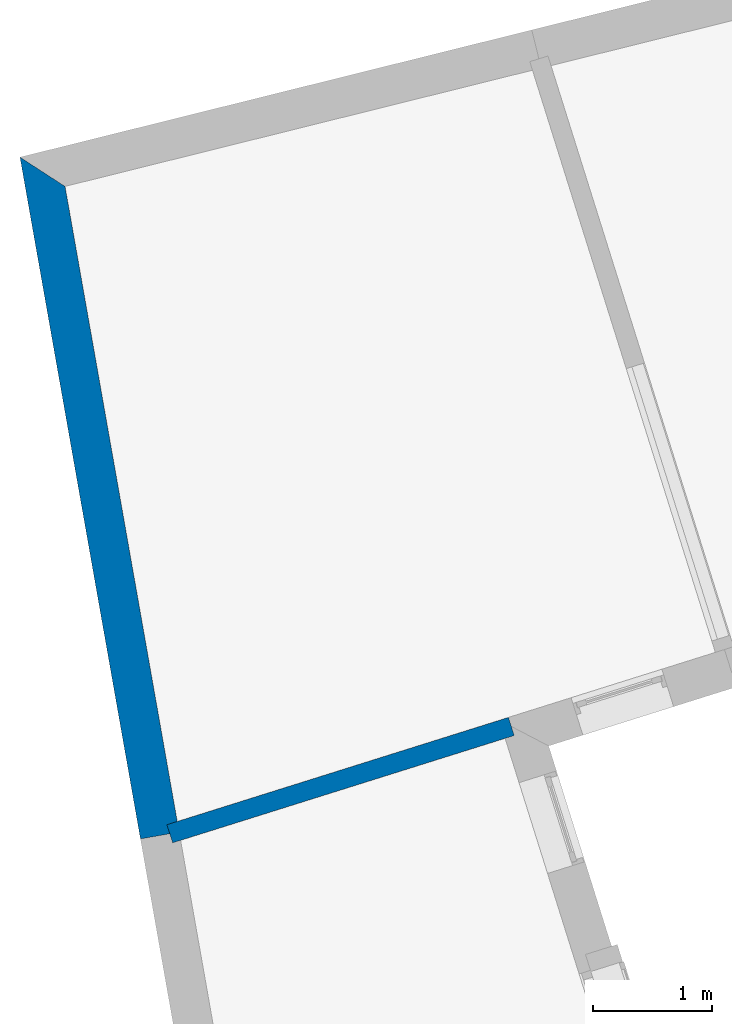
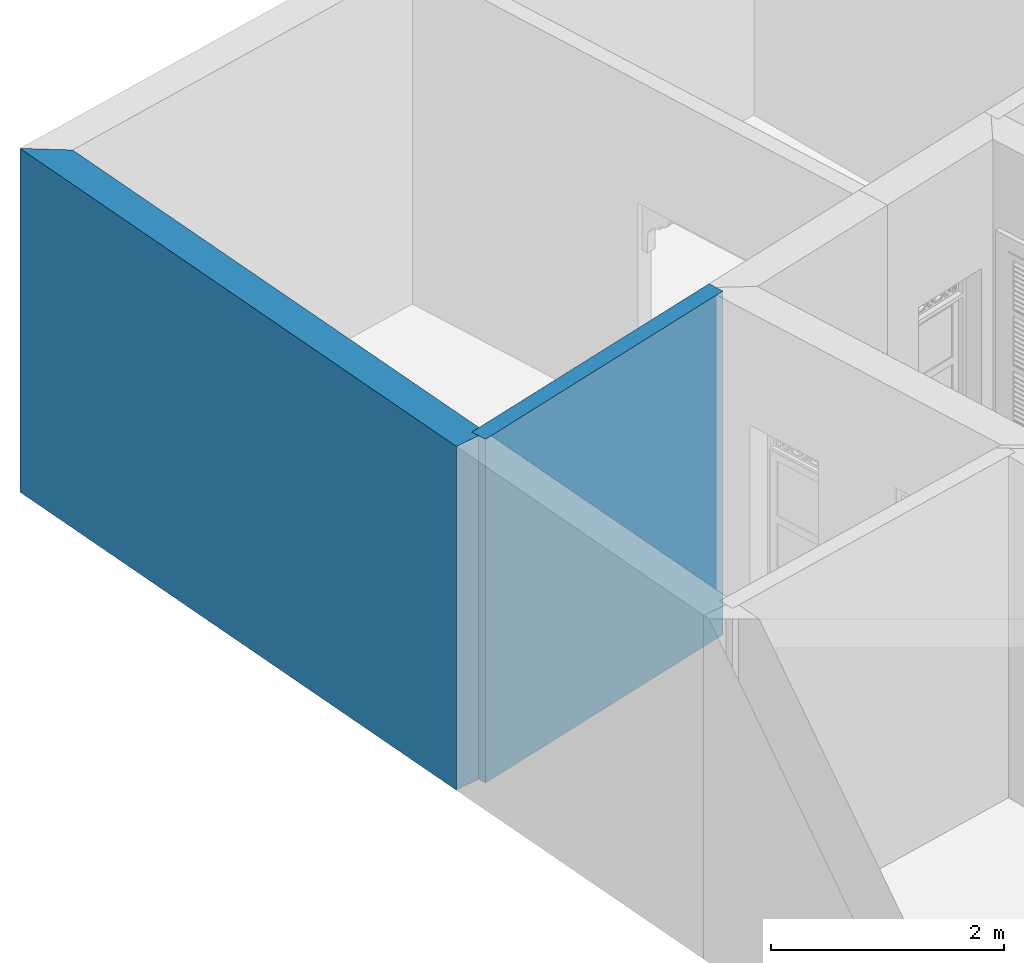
# One storey, part 10 of 14: 2 walls.
"""IFC4 building model written with IfcOpenShell, lengths in metres."""

from ifc_helpers import new_model, si_unit, frame, origin_with_axes, place, context, subcontext, project, spatial, polyline, outline, extrude, material, layer, layer_set, layer_usage, type_object, element, save


model = new_model("IFC4")

# Units and contexts
model_context = context("Model", 3, world=origin_with_axes())
body_context = subcontext(model_context, "Body", "Model", "MODEL_VIEW")
ifc_project = project(units=[si_unit("PLANEANGLEUNIT", "RADIAN"), si_unit("MASSUNIT", "GRAM", prefix="KILO"), si_unit("FORCEUNIT", "NEWTON", prefix="KILO"), si_unit("LENGTHUNIT", "METRE"), si_unit("AREAUNIT", "SQUARE_METRE"), si_unit("VOLUMEUNIT", "CUBIC_METRE")], contexts=[model_context, model_context])

# Site, building, storey
site_placement = place(None, origin_with_axes())
site = spatial("IfcSite", under=ifc_project, at=site_placement, Name="Site plot-0", CompositionType="ELEMENT")
building_placement = place(None, origin_with_axes())
building = spatial("IfcBuilding", under=site, at=building_placement, Name="Building plot-0", CompositionType="ELEMENT")
storey_placement = place(None, origin_with_axes())
storey = spatial("IfcBuildingStorey", under=building, at=storey_placement, Name="plot-0 0", CompositionType="ELEMENT", Elevation=0.0)

# Walls
ifc_material_1 = material(Name="Masonry")
ifc_layer_1 = layer(ifc_material_1, 0.33, ventilated=False)
ifc_layer_set_1 = layer_set([ifc_layer_1], Name="party_0.08_0.25")
ifc_layer_usage_1 = layer_usage(ifc_layer_set_1, "AXIS2", "POSITIVE", -0.25)
wall_type_1 = type_object("IfcWallType", Name="party_0.08_0.25", PredefinedType="SOLIDWALL", material=ifc_layer_set_1)
wall_1_placement = place(storey_placement, frame((-0.833201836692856, 13.3236779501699, 0.0), z_axis=(0.0, 0.0, 1.0), x_axis=(0.174013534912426, -0.984743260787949, 0.0)))
element("IfcWall", 1, at=wall_1_placement, inside=storey, type_object=wall_type_1, material=ifc_layer_usage_1, Name="party", context=body_context, shape_type="SweptSolid", body=[
    extrude(outline(polyline([(0.0746835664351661, 0.08), (-0.233386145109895, -0.25), (5.58670655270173, -0.25), (5.58670655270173, 0.08), (0.0746835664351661, 0.08)])), origin_with_axes(), (0.0, 0.0, 1.0), 3.6),
])
ifc_material_2 = material(Name="Masonry")
ifc_layer_2 = layer(ifc_material_2, 0.16, ventilated=False)
ifc_layer_set_2 = layer_set([ifc_layer_2], Name="interior_0.08_0.08")
ifc_layer_usage_2 = layer_usage(ifc_layer_set_2, "AXIS2", "POSITIVE", -0.08)
wall_type_2 = type_object("IfcWallType", Name="interior_0.08_0.08", PredefinedType="SOLIDWALL", material=ifc_layer_set_2)
wall_2_placement = place(storey_placement, frame((3.01033438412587, 8.7242998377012, 0.0), z_axis=(0.0, 0.0, 1.0), x_axis=(-0.954025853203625, -0.29972432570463, 0.0)))
element("IfcWall", 2, at=wall_2_placement, inside=storey, type_object=wall_type_2, material=ifc_layer_usage_2, Name="interior", context=body_context, shape_type="SweptSolid", body=[
    extrude(outline(polyline([(1.27412785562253e-16, 0.0800000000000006), (-1.37209959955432e-16, -0.0800000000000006), (3.00974408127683, -0.0799999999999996), (3.00974408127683, 0.0799999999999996), (1.27412785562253e-16, 0.0800000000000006)])), origin_with_axes(), (0.0, 0.0, 1.0), 3.6),
])

save(model, "model.ifc")
